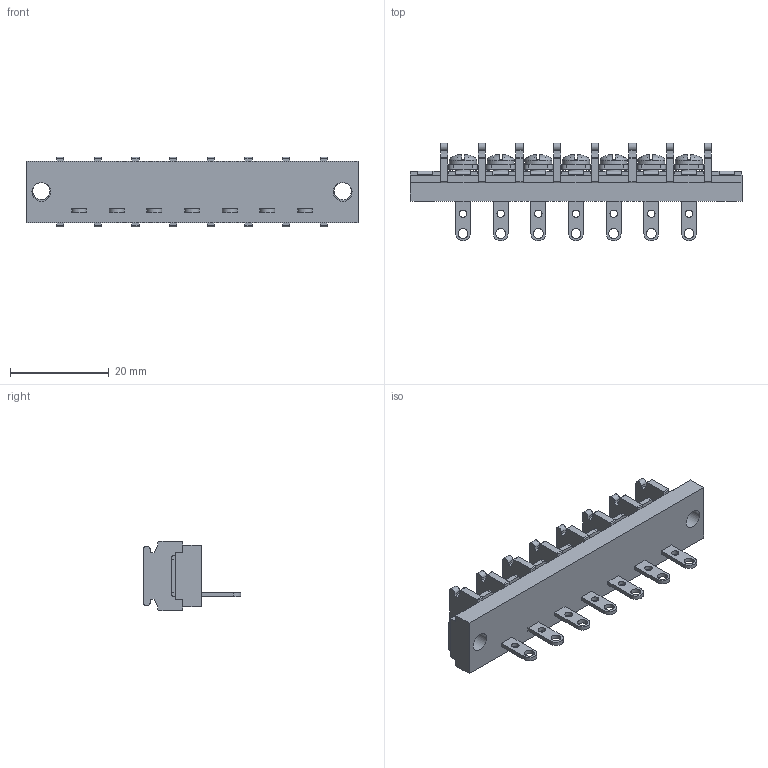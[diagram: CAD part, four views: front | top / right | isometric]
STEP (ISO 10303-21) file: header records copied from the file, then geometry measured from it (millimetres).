
FILE_DESCRIPTION(/* description */ ('Alibre Inc.'),/* implementation_level */ '2;1');
FILE_NAME(/* name */ 'export0',/* time_stamp */ '2015-10-23T20:01:33+09:00',/* author */ (''),/* organization */ (''),/* preprocessor_version */ 'ST-DEVELOPER v14',/* originating_system */ 'Alibre',/* authorisation */ '');
FILE_SCHEMA (('CONFIG_CONTROL_DESIGN'));
Length unit declared in the file: centimetre
Products named in the file (1): ID_1
Bounding box: 67.16 x 19.8 x 14 mm (x, y, z)
Volume: 6006.8 mm3; surface area: 5933.8 mm2
Topology: 1 solids, 17 shells, 1264 faces, 3441 edges, 2261 vertices
Faces by surface type: plane 964, cylinder 140, bspline 104, cone 28, torus 14, sphere 14
Full cylindrical faces by diameter (mm): 1.5 x7, 2 x7, 3 x7, 3.5 x2, 3.8 x2, 5.5 x7
Entity records: 37914 total; most frequent: CARTESIAN_POINT 8280, ORIENTED_EDGE 6726, DIRECTION 4715, EDGE_CURVE 3363, VECTOR 2444, LINE 2444, VERTEX_POINT 2229, AXIS2_PLACEMENT_3D 1575
